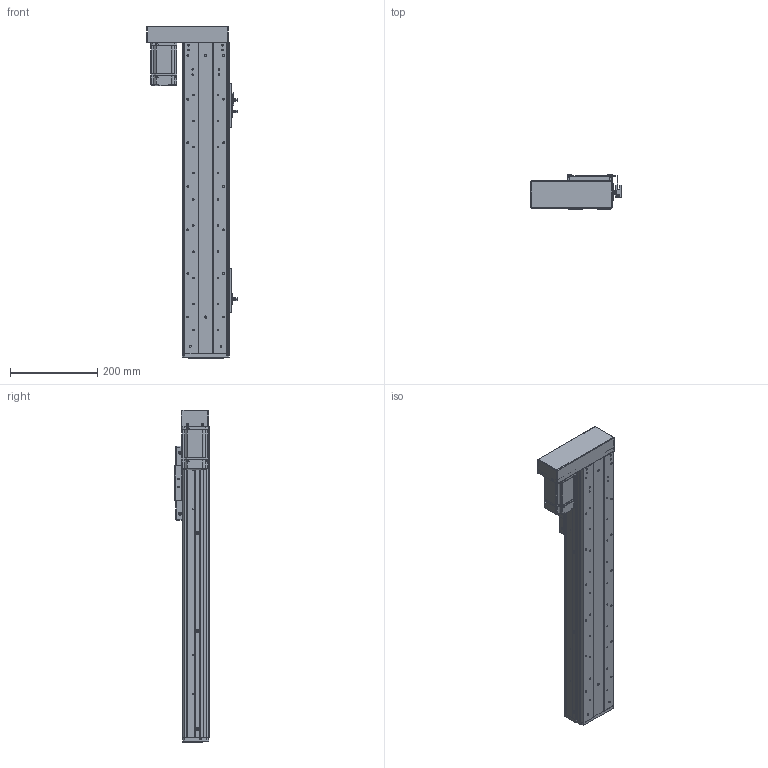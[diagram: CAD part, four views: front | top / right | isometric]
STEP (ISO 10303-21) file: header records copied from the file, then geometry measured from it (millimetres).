
FILE_DESCRIPTION (( 'STEP AP203' ), '1' );
FILE_NAME ('RY100FS-L1620-300-LK(15双轨).SLDASM_450.step', '2021-03-02T07:40:13', ( '盈信电脑' ), ( '东莞市道滘镇水果街19号' ), 'SwSTEP 2.0', 'SolidWorks 2012', '' );
FILE_SCHEMA (( 'CONFIG_CONTROL_DESIGN' ));
Products named in the file (21): RY100FS-L1620-300-LK(15邧寢).SLDASM_450; 蚥薯蝶紫輸; RY100FS-15邧寢蛌殏萇儂啣; RY100FS-15邧寢蛌殏萇儂欶; 1; 滅袉蝶14-35; RY100F-詩湍揤踡輸; RY100FS-15邧寢蛌殏萇儂釱; 覜茼ん672; RY100FS-双轨螺母座(16丝杆）; 672嫖萇羲壽假蚾釱; RY100F-綴裔啣; RY80俋离覜茼え; RY100F-滅鳥裔啣; RY100F-詩湍揤踡謫; 棠沺沭; RY100F-詩湍幗謫粣; RY100FS-300-LK15絳寢倰第菁釱_450; RY100FS-300-LK15邧寢祥凄詩湍_450; RY100FS-300-LK15絳寢倰第奻裔啣_450; RY100FS-双轨铝滑块(上板）
Assembly tree (29 placements, depth 2):
  RY100FS-L1620-300-LK(15邧寢).SLDASM_450
    RY100FS-300-LK15絳寢倰第菁釱_450
    RY100FS-300-LK15絳寢倰第奻裔啣_450  x2
    RY100FS-300-LK15邧寢祥凄詩湍_450
    RY100FS-双轨铝滑块(上板）
    RY100F-滅鳥裔啣
    棠沺沭  x2
    RY100F-詩湍幗謫粣
    RY100F-詩湍揤踡謫  x2
    RY100F-綴裔啣
    672嫖萇羲壽假蚾釱  x2
    RY80俋离覜茼え  x2
    覜茼ん672  x3
    RY100F-詩湍揤踡輸  x2
    RY100FS-双轨螺母座(16丝杆）
    RY100FS-15邧寢蛌殏萇儂釱
    滅袉蝶14-35
    1
    RY100FS-15邧寢蛌殏萇儂啣
    RY100FS-15邧寢蛌殏萇儂欶
    蚥薯蝶紫輸  x2
Bounding box: 207.3 x 78.5 x 762 mm (x, y, z)
Volume: 2068916.2 mm3; surface area: 864312.7 mm2
Topology: 29 solids, 29 shells, 2200 faces, 5941 edges, 3831 vertices
Faces by surface type: plane 1020, cylinder 979, cone 168, bspline 33
Entity records: 62307 total; most frequent: CARTESIAN_POINT 12821, DIRECTION 9894, ORIENTED_EDGE 9686, EDGE_CURVE 4843, AXIS2_PLACEMENT_3D 3496, VERTEX_POINT 3179, VECTOR 2902, LINE 2902
